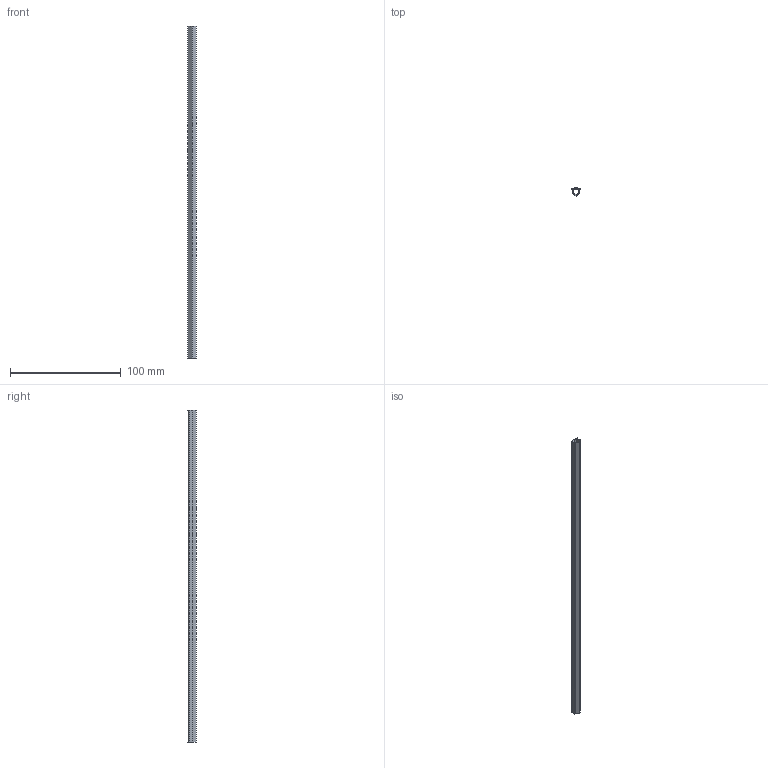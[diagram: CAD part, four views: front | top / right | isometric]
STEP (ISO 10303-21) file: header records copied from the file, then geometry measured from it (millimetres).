
FILE_DESCRIPTION (( 'STEP AP203' ), '1' );
FILE_NAME ('185-CE-DS-6¡¡.STEP', '2015-07-09T09:18:14', ( '' ), ( '' ), 'SwSTEP 2.0', 'SolidWorks 2013', '' );
FILE_SCHEMA (( 'CONFIG_CONTROL_DESIGN' ));
Length unit declared in the file: millimetre
Products named in the file (1): 185-CE-DS-6﹛
Bounding box: 8 x 7.54 x 300 mm (x, y, z)
Volume: 4839.6 mm3; surface area: 13483.9 mm2
Topology: 1 solids, 1 shells, 20 faces, 54 edges, 36 vertices
Faces by surface type: plane 15, cylinder 5
Entity records: 709 total; most frequent: CARTESIAN_POINT 111, ORIENTED_EDGE 108, DIRECTION 106, EDGE_CURVE 54, LINE 44, VECTOR 44, VERTEX_POINT 36, AXIS2_PLACEMENT_3D 31
